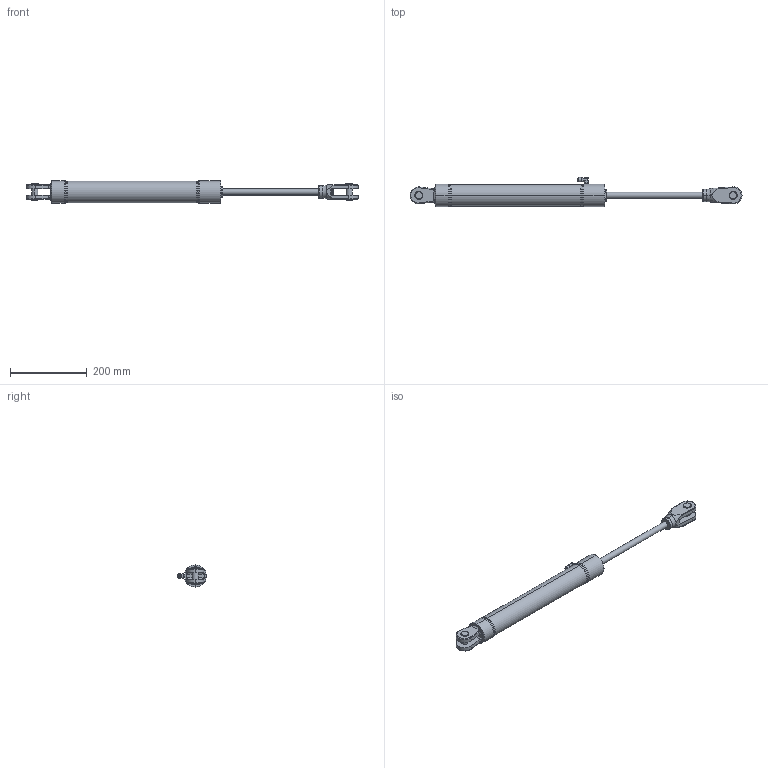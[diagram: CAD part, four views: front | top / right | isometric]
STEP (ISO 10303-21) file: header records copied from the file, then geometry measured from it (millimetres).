
FILE_DESCRIPTION (( 'STEP AP203' ), '1' );
FILE_NAME ('CL_045_S_0250.STEP', '2017-12-20T13:26:18', ( 'Pierluca' ), ( '' ), 'SwSTEP 2.0', 'SolidWorks 2015', '' );
FILE_SCHEMA (( 'CONFIG_CONTROL_DESIGN' ));
Length unit declared in the file: millimetre
Products named in the file (1): CL_045_S_0250
Bounding box: 864 x 75.56 x 58 mm (x, y, z)
Volume: 1318963.8 mm3; surface area: 131411.9 mm2
Topology: 1 solids, 1 shells, 264 faces, 645 edges, 401 vertices
Faces by surface type: plane 99, cylinder 94, cone 37, torus 34
Entity records: 8726 total; most frequent: CARTESIAN_POINT 2441, DIRECTION 1344, ORIENTED_EDGE 1290, EDGE_CURVE 645, AXIS2_PLACEMENT_3D 543, VERTEX_POINT 401, EDGE_LOOP 288, CIRCLE 278
